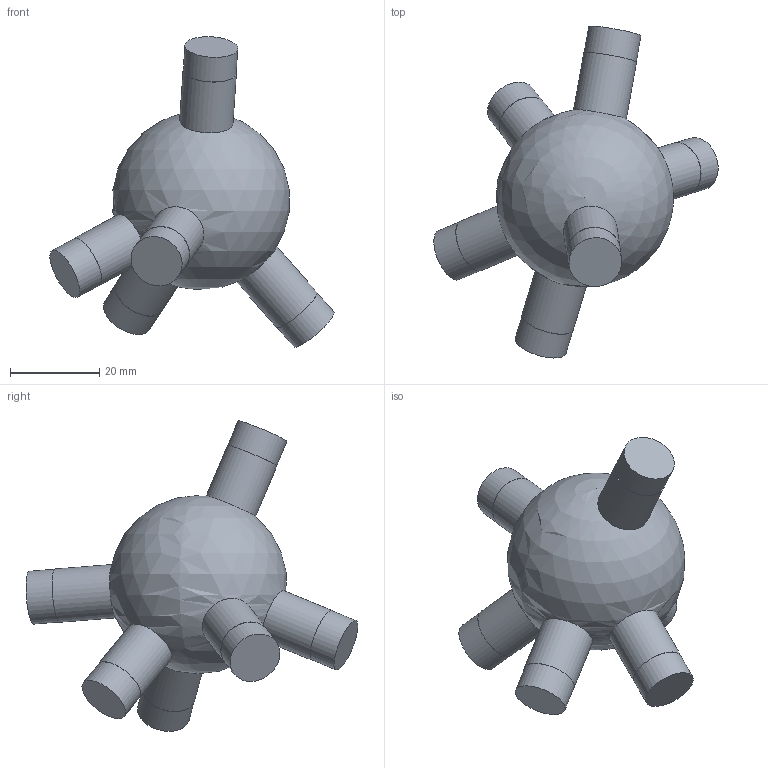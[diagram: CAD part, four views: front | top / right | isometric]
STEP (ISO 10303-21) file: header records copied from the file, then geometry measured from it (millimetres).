
FILE_DESCRIPTION(('Open CASCADE Model'),'2;1');
FILE_NAME('Open CASCADE Shape Model','2026-10-21T12:47:57',('Author'),( 'Open CASCADE'),'Open CASCADE STEP processor 7.9','Open CASCADE 7.9' ,'Unknown');
FILE_SCHEMA(('AUTOMOTIVE_DESIGN { 1 0 10303 214 1 1 1 1 }'));
Length unit declared in the file: millimetre
Products named in the file (1): Open CASCADE STEP translator 7.9 83
Bounding box: 63.84 x 74.52 x 69.74 mm (x, y, z)
Volume: 45789 mm3; surface area: 9219.7 mm2
Topology: 1 solids, 1 shells, 25 faces, 41 edges, 28 vertices
Faces by surface type: cylinder 12, plane 12, sphere 1
Full cylindrical faces by diameter (mm): 11.9 x6, 12 x6
Entity records: 1520 total; most frequent: CARTESIAN_POINT 586, DIRECTION 192, ORIENTED_EDGE 80, PCURVE 80, DEFINITIONAL_REPRESENTATION 80, LINE 66, VECTOR 66, AXIS2_PLACEMENT_3D 54
